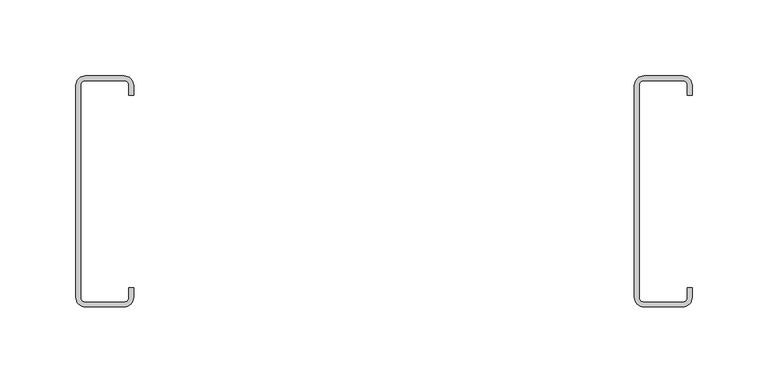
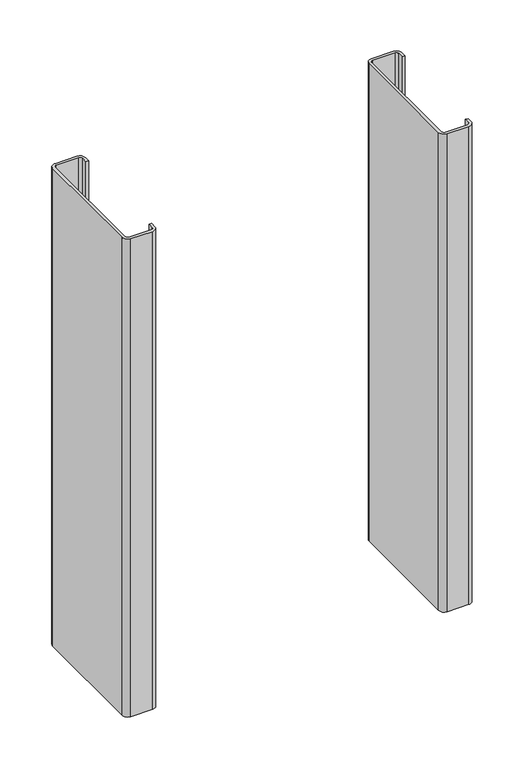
"""IFC4 building model written with IfcOpenShell, lengths in millimetres: proxy geometry, CRAi Generic Model Metal Stud Array : CRAi Generic Model Metal Stud Array."""

from ifc_helpers import new_model, si_unit, point, frame_2d, origin, origin_with_axes, place, context, project, spatial, polyline, circle_curve, trimmed, segment, composite_curve, outline, extrude, source, transform, mapped, element, save


def generic_models_cd07b2ce(model_context):
    return source(origin(), model_context, "Body", "SweptSolid", [
        extrude(outline(composite_curve([segment(polyline([(203.2, 63.5), (200.025, 63.5), (200.025, 70.2679713)]), True, "CONTINUOUS"), segment(trimmed(circle_curve(frame_2d((196.85, 69.85)), 3.2023936), [point((200.025, 70.2679713))], [point((197.2679713, 73.025))], True, "CARTESIAN"), True, "CONTINUOUS"), segment(polyline([(197.2679713, 73.025), (171.0320287, 73.025)]), True, "CONTINUOUS"), segment(trimmed(circle_curve(frame_2d((171.45, 69.85)), 3.2023936), [point((171.0320287, 73.025))], [point((168.275, 70.2679713))], True, "CARTESIAN"), True, "CONTINUOUS"), segment(polyline([(168.275, 70.2679713), (168.275, -70.2679713)]), True, "CONTINUOUS"), segment(trimmed(circle_curve(frame_2d((171.45, -69.85)), 3.2023936), [point((168.275, -70.2679713))], [point((171.0320287, -73.025))], True, "CARTESIAN"), True, "CONTINUOUS"), segment(polyline([(171.0320287, -73.025), (197.2679713, -73.025)]), True, "CONTINUOUS"), segment(trimmed(circle_curve(frame_2d((196.85, -69.85)), 3.2023936), [point((197.2679713, -73.025))], [point((200.025, -70.2679713))], True, "CARTESIAN"), True, "CONTINUOUS"), segment(polyline([(200.025, -70.2679713), (200.025, -63.5), (203.2, -63.5), (203.2, -69.85)]), True, "CONTINUOUS"), segment(trimmed(circle_curve(frame_2d((196.85, -69.85)), 6.35), [point((203.2, -69.85))], [point((196.85, -76.2))], False, "CARTESIAN"), True, "CONTINUOUS"), segment(polyline([(196.85, -76.2), (171.45, -76.2)]), True, "CONTINUOUS"), segment(trimmed(circle_curve(frame_2d((171.45, -69.85)), 6.35), [point((171.45, -76.2))], [point((165.1, -69.85))], False, "CARTESIAN"), True, "CONTINUOUS"), segment(polyline([(165.1, -69.85), (165.1, 69.85)]), True, "CONTINUOUS"), segment(trimmed(circle_curve(frame_2d((171.45, 69.85)), 6.35), [point((165.1, 69.85))], [point((171.45, 76.2))], False, "CARTESIAN"), True, "CONTINUOUS"), segment(polyline([(171.45, 76.2), (196.85, 76.2)]), True, "CONTINUOUS"), segment(trimmed(circle_curve(frame_2d((196.85, 69.85)), 6.35), [point((196.85, 76.2))], [point((203.2, 69.85))], False, "CARTESIAN"), True, "CONTINUOUS"), segment(polyline([(203.2, 69.85), (203.2, 63.5)]), True, "CONTINUOUS")], self_intersect=False)), origin_with_axes(), (0.0, 0.0, 1.0), 587.375),
        extrude(outline(composite_curve([segment(polyline([(-165.1, 63.5), (-168.275, 63.5), (-168.275, 70.2679713)]), True, "CONTINUOUS"), segment(trimmed(circle_curve(frame_2d((-171.45, 69.85)), 3.2023936), [point((-168.275, 70.2679713))], [point((-171.0320287, 73.025))], True, "CARTESIAN"), True, "CONTINUOUS"), segment(polyline([(-171.0320287, 73.025), (-197.2679713, 73.025)]), True, "CONTINUOUS"), segment(trimmed(circle_curve(frame_2d((-196.85, 69.85)), 3.2023936), [point((-197.2679713, 73.025))], [point((-200.025, 70.2679713))], True, "CARTESIAN"), True, "CONTINUOUS"), segment(polyline([(-200.025, 70.2679713), (-200.025, -70.2679713)]), True, "CONTINUOUS"), segment(trimmed(circle_curve(frame_2d((-196.85, -69.85)), 3.2023936), [point((-200.025, -70.2679713))], [point((-197.2679713, -73.025))], True, "CARTESIAN"), True, "CONTINUOUS"), segment(polyline([(-197.2679713, -73.025), (-171.0320287, -73.025)]), True, "CONTINUOUS"), segment(trimmed(circle_curve(frame_2d((-171.45, -69.85)), 3.2023936), [point((-171.0320287, -73.025))], [point((-168.275, -70.2679713))], True, "CARTESIAN"), True, "CONTINUOUS"), segment(polyline([(-168.275, -70.2679713), (-168.275, -63.5), (-165.1, -63.5), (-165.1, -69.85)]), True, "CONTINUOUS"), segment(trimmed(circle_curve(frame_2d((-171.45, -69.85)), 6.35), [point((-165.1, -69.85))], [point((-171.45, -76.2))], False, "CARTESIAN"), True, "CONTINUOUS"), segment(polyline([(-171.45, -76.2), (-196.85, -76.2)]), True, "CONTINUOUS"), segment(trimmed(circle_curve(frame_2d((-196.85, -69.85)), 6.35), [point((-196.85, -76.2))], [point((-203.2, -69.85))], False, "CARTESIAN"), True, "CONTINUOUS"), segment(polyline([(-203.2, -69.85), (-203.2, 69.85)]), True, "CONTINUOUS"), segment(trimmed(circle_curve(frame_2d((-196.85, 69.85)), 6.35), [point((-203.2, 69.85))], [point((-196.85, 76.2))], False, "CARTESIAN"), True, "CONTINUOUS"), segment(polyline([(-196.85, 76.2), (-171.45, 76.2)]), True, "CONTINUOUS"), segment(trimmed(circle_curve(frame_2d((-171.45, 69.85)), 6.35), [point((-171.45, 76.2))], [point((-165.1, 69.85))], False, "CARTESIAN"), True, "CONTINUOUS"), segment(polyline([(-165.1, 69.85), (-165.1, 63.5)]), True, "CONTINUOUS")], self_intersect=False)), origin_with_axes(), (0.0, 0.0, 1.0), 587.375),
    ])


if __name__ == "__main__":
    model = new_model("IFC4")
    model_context = context("Model", 3, world=origin())
    ifc_project = project(units=[si_unit("LENGTHUNIT", "METRE", prefix="MILLI")], contexts=[model_context])
    site = spatial("IfcSite", under=ifc_project)
    building = spatial("IfcBuilding", under=site)
    placement = place(None, origin())
    generic_models_shape = generic_models_cd07b2ce(model_context)
    element("IfcBuildingElementProxy", 1, Name="CRAi Generic Model Metal Stud Array : CRAi Generic Model Metal Stud Array", ObjectType="CRAi Generic Model Metal Stud Array : CRAi Generic Model Metal Stud Array", at=placement, inside=building, context=model_context, shape_type="MappedRepresentation", body=[
        mapped(generic_models_shape, transform((0.0, 0.0, 0.0), x_axis=(1.0, 0.0, 0.0), y_axis=(0.0, 1.0, 0.0), z_axis=(0.0, 0.0, 1.0))),
    ])
    save(model, "model.ifc")
